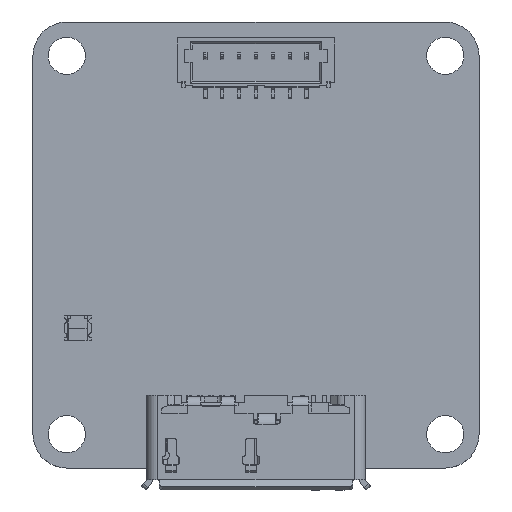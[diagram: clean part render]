
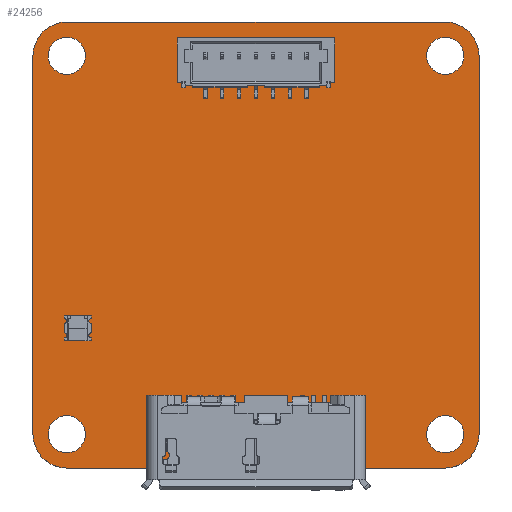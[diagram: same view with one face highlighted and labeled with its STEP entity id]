
A CAD part, top view. The second image highlights one B-rep face of the part: STEP entity #24256.
In plain terms, the highlighted planar face has unit normal (0, 0, 1).
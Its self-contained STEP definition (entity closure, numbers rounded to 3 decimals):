
#118 = CARTESIAN_POINT ( 'NONE',  ( 24.4, 26.4, 1.201 ) ) ;
#191 = CARTESIAN_POINT ( 'NONE',  ( 2., 2., 1.201 ) ) ;
#551 = DIRECTION ( 'NONE',  ( 0., 0., 1. ) ) ;
#625 = CARTESIAN_POINT ( 'NONE',  ( 2., 24.4, 1.201 ) ) ;
#926 = FACE_BOUND ( 'NONE', #57129, .T. ) ;
#1127 = CARTESIAN_POINT ( 'NONE',  ( 2., 0., 1.201 ) ) ;
#1759 = CIRCLE ( 'NONE', #46554, 1.1 ) ;
#2299 = ORIENTED_EDGE ( 'NONE', *, *, #37454, .F. ) ;
#2560 = DIRECTION ( 'NONE',  ( 0., 0., 1. ) ) ;
#2724 = EDGE_CURVE ( 'NONE', #53272, #63998, #22178, .T. ) ;
#4485 = DIRECTION ( 'NONE',  ( 0., 0., 1. ) ) ;
#4680 = VERTEX_POINT ( 'NONE', #19799 ) ;
#5853 = DIRECTION ( 'NONE',  ( 1., 0., 0. ) ) ;
#6916 = VECTOR ( 'NONE', #49505, 1000. ) ;
#6956 = DIRECTION ( 'NONE',  ( 0., 0., 1. ) ) ;
#7523 = ORIENTED_EDGE ( 'NONE', *, *, #2724, .T. ) ;
#8269 = ORIENTED_EDGE ( 'NONE', *, *, #22793, .T. ) ;
#8310 = EDGE_CURVE ( 'NONE', #19047, #64848, #40219, .T. ) ;
#8607 = CARTESIAN_POINT ( 'NONE',  ( 25.5, 2., 1.201 ) ) ;
#8652 = DIRECTION ( 'NONE',  ( 0., 0., 1. ) ) ;
#8908 = ORIENTED_EDGE ( 'NONE', *, *, #10247, .T. ) ;
#8959 = AXIS2_PLACEMENT_3D ( 'NONE', #31587, #30909, #30227 ) ;
#9700 = CIRCLE ( 'NONE', #62055, 2. ) ;
#9771 = ORIENTED_EDGE ( 'NONE', *, *, #49772, .T. ) ;
#10020 = CIRCLE ( 'NONE', #8959, 1.1 ) ;
#10247 = EDGE_CURVE ( 'NONE', #4680, #30672, #9700, .T. ) ;
#10292 = CIRCLE ( 'NONE', #58391, 2. ) ;
#10695 = EDGE_CURVE ( 'NONE', #44174, #38684, #19377, .T. ) ;
#11957 = CARTESIAN_POINT ( 'NONE',  ( 24.4, 24.4, 1.201 ) ) ;
#13682 = CARTESIAN_POINT ( 'NONE',  ( 2., 2., 1.201 ) ) ;
#14677 = PLANE ( 'NONE',  #50932 ) ;
#14870 = DIRECTION ( 'NONE',  ( 0., 0., 1. ) ) ;
#15283 = EDGE_CURVE ( 'NONE', #64848, #19047, #39313, .T. ) ;
#15915 = FACE_BOUND ( 'NONE', #34285, .T. ) ;
#16165 = ORIENTED_EDGE ( 'NONE', *, *, #43247, .F. ) ;
#16183 = CARTESIAN_POINT ( 'NONE',  ( 24.4, 2., 1.201 ) ) ;
#16420 = VERTEX_POINT ( 'NONE', #56071 ) ;
#17807 = CARTESIAN_POINT ( 'NONE',  ( 0., 24.4, 1.201 ) ) ;
#18542 = DIRECTION ( 'NONE',  ( 0., 0., 1. ) ) ;
#18645 = CIRCLE ( 'NONE', #63479, 1.1 ) ;
#19047 = VERTEX_POINT ( 'NONE', #25116 ) ;
#19328 = EDGE_CURVE ( 'NONE', #20002, #58021, #1759, .T. ) ;
#19377 = CIRCLE ( 'NONE', #56804, 1.1 ) ;
#19608 = EDGE_CURVE ( 'NONE', #23313, #30549, #10292, .T. ) ;
#19799 = CARTESIAN_POINT ( 'NONE',  ( 24.4, 0., 1.201 ) ) ;
#19990 = ORIENTED_EDGE ( 'NONE', *, *, #20802, .F. ) ;
#20002 = VERTEX_POINT ( 'NONE', #34203 ) ;
#20268 = DIRECTION ( 'NONE',  ( 1., 0., 0. ) ) ;
#20629 = AXIS2_PLACEMENT_3D ( 'NONE', #37346, #38008, #57728 ) ;
#20802 = EDGE_CURVE ( 'NONE', #58021, #20002, #18645, .T. ) ;
#20956 = DIRECTION ( 'NONE',  ( 0., 0., 1. ) ) ;
#21496 = CARTESIAN_POINT ( 'NONE',  ( 26.4, 24.4, 1.201 ) ) ;
#22178 = LINE ( 'NONE', #17807, #27733 ) ;
#22368 = CIRCLE ( 'NONE', #37366, 2. ) ;
#22793 = EDGE_CURVE ( 'NONE', #30672, #23313, #40431, .T. ) ;
#23313 = VERTEX_POINT ( 'NONE', #21496 ) ;
#23346 = DIRECTION ( 'NONE',  ( -1., 0., 0. ) ) ;
#23561 = DIRECTION ( 'NONE',  ( -1., 0., 0. ) ) ;
#23608 = CARTESIAN_POINT ( 'NONE',  ( 0., 24.4, 1.201 ) ) ;
#23721 = CIRCLE ( 'NONE', #61102, 1.1 ) ;
#24256 = ADVANCED_FACE ( 'NONE', ( #40109, #926, #15915, #31721, #60500 ), #14677, .T. ) ;
#24416 = EDGE_CURVE ( 'NONE', #30549, #65646, #48053, .T. ) ;
#24978 = VECTOR ( 'NONE', #37134, 1000. ) ;
#25116 = CARTESIAN_POINT ( 'NONE',  ( 23.3, 24.4, 1.201 ) ) ;
#27733 = VECTOR ( 'NONE', #31986, 1000. ) ;
#27742 = DIRECTION ( 'NONE',  ( 0., 0., 1. ) ) ;
#28287 = ORIENTED_EDGE ( 'NONE', *, *, #19328, .F. ) ;
#29121 = CARTESIAN_POINT ( 'NONE',  ( 2., 24.4, 1.201 ) ) ;
#30227 = DIRECTION ( 'NONE',  ( 1., 0., 0. ) ) ;
#30549 = VERTEX_POINT ( 'NONE', #118 ) ;
#30672 = VERTEX_POINT ( 'NONE', #62914 ) ;
#30909 = DIRECTION ( 'NONE',  ( 0., 0., 1. ) ) ;
#31530 = LINE ( 'NONE', #51852, #24978 ) ;
#31587 = CARTESIAN_POINT ( 'NONE',  ( 2., 24.4, 1.201 ) ) ;
#31721 = FACE_BOUND ( 'NONE', #64981, .T. ) ;
#31804 = VECTOR ( 'NONE', #38706, 1000. ) ;
#31964 = EDGE_LOOP ( 'NONE', ( #51830, #7523, #63246, #9771, #8908, #8269, #38422, #50488 ) ) ;
#31986 = DIRECTION ( 'NONE',  ( 0., -1., 0. ) ) ;
#32454 = CIRCLE ( 'NONE', #20629, 1.1 ) ;
#33186 = CARTESIAN_POINT ( 'NONE',  ( 24.4, 24.4, 1.201 ) ) ;
#33206 = CARTESIAN_POINT ( 'NONE',  ( 3.1, 24.4, 1.201 ) ) ;
#33803 = DIRECTION ( 'NONE',  ( 0., 0., 1. ) ) ;
#34203 = CARTESIAN_POINT ( 'NONE',  ( 3.1, 2., 1.201 ) ) ;
#34285 = EDGE_LOOP ( 'NONE', ( #48824, #61952 ) ) ;
#34470 = DIRECTION ( 'NONE',  ( 1., 0., 0. ) ) ;
#36284 = DIRECTION ( 'NONE',  ( 1., 0., 0. ) ) ;
#36958 = CARTESIAN_POINT ( 'NONE',  ( 2., 26.4, 1.201 ) ) ;
#37134 = DIRECTION ( 'NONE',  ( 1., 0., 0. ) ) ;
#37346 = CARTESIAN_POINT ( 'NONE',  ( 24.4, 2., 1.201 ) ) ;
#37366 = AXIS2_PLACEMENT_3D ( 'NONE', #29121, #8652, #34470 ) ;
#37454 = EDGE_CURVE ( 'NONE', #42096, #16420, #23721, .T. ) ;
#37714 = EDGE_LOOP ( 'NONE', ( #28287, #19990 ) ) ;
#38008 = DIRECTION ( 'NONE',  ( 0., 0., 1. ) ) ;
#38422 = ORIENTED_EDGE ( 'NONE', *, *, #19608, .T. ) ;
#38684 = VERTEX_POINT ( 'NONE', #8607 ) ;
#38706 = DIRECTION ( 'NONE',  ( -1., 0., 0. ) ) ;
#38983 = CIRCLE ( 'NONE', #45325, 2. ) ;
#39313 = CIRCLE ( 'NONE', #60672, 1.1 ) ;
#40109 = FACE_BOUND ( 'NONE', #37714, .T. ) ;
#40219 = CIRCLE ( 'NONE', #43397, 1.1 ) ;
#40431 = LINE ( 'NONE', #60506, #6916 ) ;
#42096 = VERTEX_POINT ( 'NONE', #33206 ) ;
#42949 = CARTESIAN_POINT ( 'NONE',  ( 0., 2., 1.201 ) ) ;
#43045 = CARTESIAN_POINT ( 'NONE',  ( 24.4, 26.4, 1.201 ) ) ;
#43247 = EDGE_CURVE ( 'NONE', #38684, #44174, #32454, .T. ) ;
#43397 = AXIS2_PLACEMENT_3D ( 'NONE', #33186, #53520, #58247 ) ;
#43548 = ORIENTED_EDGE ( 'NONE', *, *, #57922, .F. ) ;
#43633 = CARTESIAN_POINT ( 'NONE',  ( 24.4, 24.4, 1.201 ) ) ;
#44174 = VERTEX_POINT ( 'NONE', #47545 ) ;
#45325 = AXIS2_PLACEMENT_3D ( 'NONE', #191, #551, #61363 ) ;
#46554 = AXIS2_PLACEMENT_3D ( 'NONE', #13682, #33803, #60492 ) ;
#46988 = EDGE_CURVE ( 'NONE', #65646, #53272, #22368, .T. ) ;
#47545 = CARTESIAN_POINT ( 'NONE',  ( 23.3, 2., 1.201 ) ) ;
#47986 = CARTESIAN_POINT ( 'NONE',  ( 2., 24.4, 1.201 ) ) ;
#48053 = LINE ( 'NONE', #43045, #31804 ) ;
#48824 = ORIENTED_EDGE ( 'NONE', *, *, #15283, .F. ) ;
#49505 = DIRECTION ( 'NONE',  ( 0., 1., 0. ) ) ;
#49772 = EDGE_CURVE ( 'NONE', #64085, #4680, #31530, .T. ) ;
#50488 = ORIENTED_EDGE ( 'NONE', *, *, #24416, .T. ) ;
#50932 = AXIS2_PLACEMENT_3D ( 'NONE', #47986, #2560, #63698 ) ;
#51118 = ORIENTED_EDGE ( 'NONE', *, *, #10695, .F. ) ;
#51830 = ORIENTED_EDGE ( 'NONE', *, *, #46988, .T. ) ;
#51852 = CARTESIAN_POINT ( 'NONE',  ( 2., 0., 1.201 ) ) ;
#53272 = VERTEX_POINT ( 'NONE', #23608 ) ;
#53520 = DIRECTION ( 'NONE',  ( 0., 0., 1. ) ) ;
#53803 = CARTESIAN_POINT ( 'NONE',  ( 2., 2., 1.201 ) ) ;
#55526 = CARTESIAN_POINT ( 'NONE',  ( 25.5, 24.4, 1.201 ) ) ;
#56071 = CARTESIAN_POINT ( 'NONE',  ( 0.9, 24.4, 1.201 ) ) ;
#56342 = CARTESIAN_POINT ( 'NONE',  ( 24.4, 2., 1.201 ) ) ;
#56804 = AXIS2_PLACEMENT_3D ( 'NONE', #56342, #4485, #36284 ) ;
#57129 = EDGE_LOOP ( 'NONE', ( #16165, #51118 ) ) ;
#57728 = DIRECTION ( 'NONE',  ( 1., 0., 0. ) ) ;
#57922 = EDGE_CURVE ( 'NONE', #16420, #42096, #10020, .T. ) ;
#58021 = VERTEX_POINT ( 'NONE', #65600 ) ;
#58247 = DIRECTION ( 'NONE',  ( -1., 0., 0. ) ) ;
#58391 = AXIS2_PLACEMENT_3D ( 'NONE', #11957, #6956, #64755 ) ;
#58546 = EDGE_CURVE ( 'NONE', #63998, #64085, #38983, .T. ) ;
#60492 = DIRECTION ( 'NONE',  ( -1., 0., 0. ) ) ;
#60500 = FACE_OUTER_BOUND ( 'NONE', #31964, .T. ) ;
#60506 = CARTESIAN_POINT ( 'NONE',  ( 26.4, 2., 1.201 ) ) ;
#60672 = AXIS2_PLACEMENT_3D ( 'NONE', #43633, #18542, #23561 ) ;
#61102 = AXIS2_PLACEMENT_3D ( 'NONE', #625, #20956, #20268 ) ;
#61363 = DIRECTION ( 'NONE',  ( 1., 0., 0. ) ) ;
#61952 = ORIENTED_EDGE ( 'NONE', *, *, #8310, .F. ) ;
#62055 = AXIS2_PLACEMENT_3D ( 'NONE', #16183, #14870, #5853 ) ;
#62914 = CARTESIAN_POINT ( 'NONE',  ( 26.4, 2., 1.201 ) ) ;
#63246 = ORIENTED_EDGE ( 'NONE', *, *, #58546, .T. ) ;
#63479 = AXIS2_PLACEMENT_3D ( 'NONE', #53803, #27742, #23346 ) ;
#63698 = DIRECTION ( 'NONE',  ( 1., 0., 0. ) ) ;
#63998 = VERTEX_POINT ( 'NONE', #42949 ) ;
#64085 = VERTEX_POINT ( 'NONE', #1127 ) ;
#64755 = DIRECTION ( 'NONE',  ( 1., 0., 0. ) ) ;
#64848 = VERTEX_POINT ( 'NONE', #55526 ) ;
#64981 = EDGE_LOOP ( 'NONE', ( #2299, #43548 ) ) ;
#65600 = CARTESIAN_POINT ( 'NONE',  ( 0.9, 2., 1.201 ) ) ;
#65646 = VERTEX_POINT ( 'NONE', #36958 ) ;
